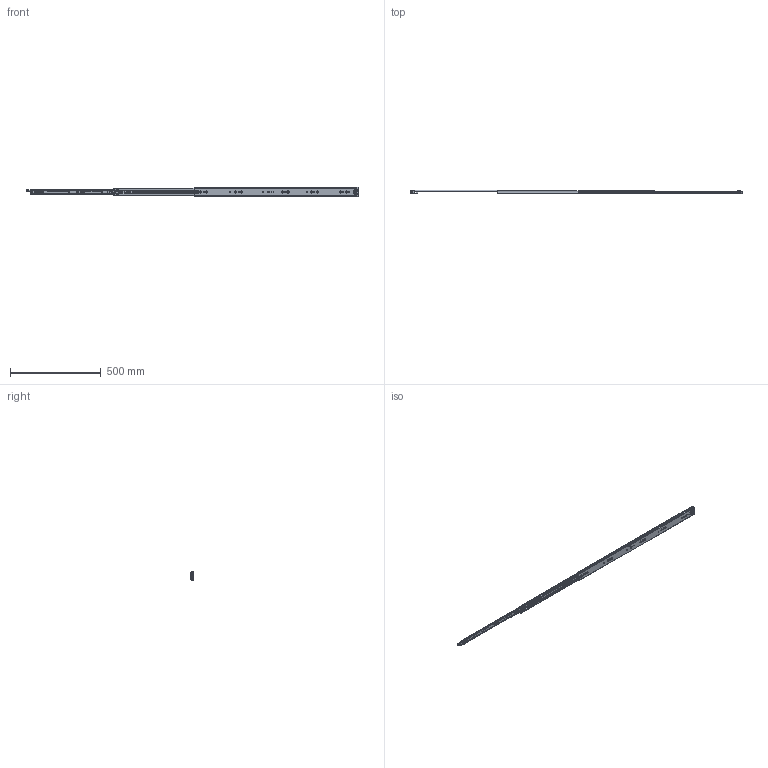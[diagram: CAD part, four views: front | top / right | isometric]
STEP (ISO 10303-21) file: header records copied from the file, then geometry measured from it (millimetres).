
FILE_DESCRIPTION((''),'2;1');
FILE_NAME('1053-3S-36YOU_ASM','2023-04-12T',('jishu015'),(''),'PRO/ENGINEER BY PARAMETRIC TECHNOLOGY CORPORATION, 2010280','PRO/ENGINEER BY PARAMETRIC TECHNOLOGY CORPORATION, 2010280','');
FILE_SCHEMA(('CONFIG_CONTROL_DESIGN'));
Products named in the file (20): 1053-02-18WAIKE_____________; 1053WEIJIAO_____________; 1053-3S-24WAIKE______________ASM; 1053ZHUTIAO-175_____________; 53-5-6GANZHU_____________; 1053ZHUTIAO-175MM______________ASM; 1053-02-18ZHONGGUI_____________; ZHONGGUIPEIJIAN___________; ZHONGGUISUOKOU___________; 1053-02-18ZHONGGUI______________ASM; 1053XIAOZHUJIA-14GE32; 1053XIAOZHUJIA-14GE32_ASM; 1053-02-18NEIGUI_____________; DAOPIAN_________; PIAN_________; 1053-3SBANJI123________; JIAO-11________; 50XINSUOKOU11_______; 1053-02-18NEIGUI______________ASM; 1053-3S-36YOU_ASM
Assembly tree (99 placements, depth 3):
  1053-3S-36YOU_ASM
    1053-3S-24WAIKE______________ASM
      1053-02-18WAIKE_____________
      1053WEIJIAO_____________
    1053ZHUTIAO-175MM______________ASM  x2
      1053ZHUTIAO-175_____________
      53-5-6GANZHU_____________
    1053-02-18ZHONGGUI______________ASM
      1053-02-18ZHONGGUI_____________
      ZHONGGUIPEIJIAN___________
      ZHONGGUISUOKOU___________
    1053XIAOZHUJIA-14GE32_ASM
      1053XIAOZHUJIA-14GE32
      53-5-6GANZHU_____________  x64
    1053-02-18NEIGUI______________ASM
      1053-02-18NEIGUI_____________
      DAOPIAN_________
      PIAN_________
      1053-3SBANJI123________
      JIAO-11________
      50XINSUOKOU11_______
Bounding box: 1826.92 x 18.7 x 53 mm (x, y, z)
Volume: 343611.5 mm3; surface area: 398355.8 mm2
Topology: 111 solids, 111 shells, 2742 faces, 7955 edges, 4960 vertices
Faces by surface type: cylinder 1199, plane 1098, sphere 200, bspline 120, cone 86, extrusion 23, torus 16
Entity records: 88385 total; most frequent: CARTESIAN_POINT 21979, ORIENTED_EDGE 14108, DIRECTION 13643, EDGE_CURVE 7054, AXIS2_PLACEMENT_3D 4719, VERTEX_POINT 4559, VECTOR 4205, LINE 4182
